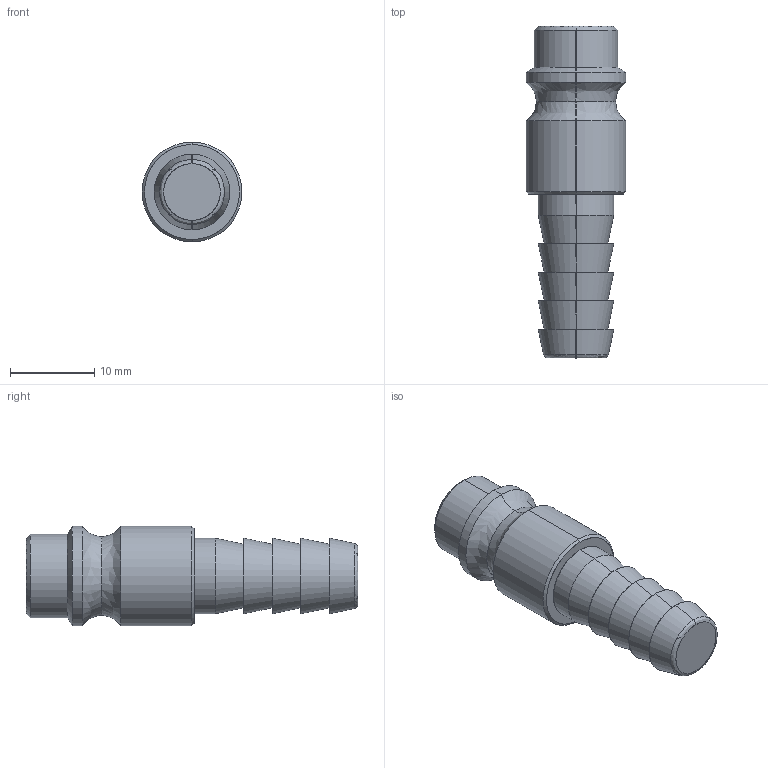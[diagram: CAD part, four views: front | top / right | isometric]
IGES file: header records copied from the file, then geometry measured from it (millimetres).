
Start section: SolidWorks IGES file using analytic representation for surfaces
Global section: file name: K:\Disegni Esecutivi\Serie 100-200\ASSIEMI\265AC\265AC0051X700A.IGS; native system: SolidWorks 2009; preprocessor: SolidWorks 2009; author: cad05; date: 090512.150202; units: millimetre
Bounding box: 11.9 x 39.5 x 11.9 mm (x, y, z)
Surface area: 1487.1 mm2 (no closed solid volume)
Topology: 0 solids, 0 shells, 37 faces, 504 edges, 504 vertices
Faces by surface type: revolution 24, bspline 13
